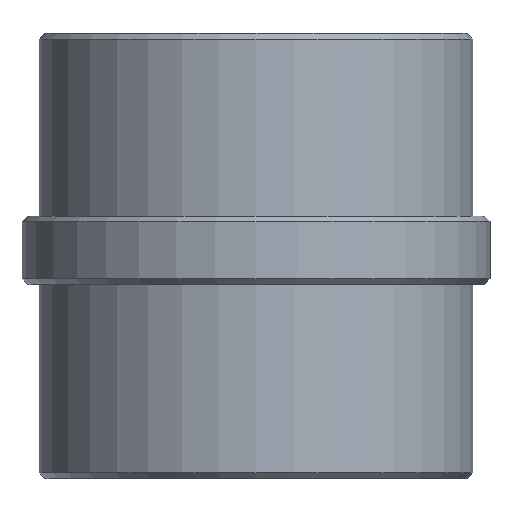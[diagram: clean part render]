
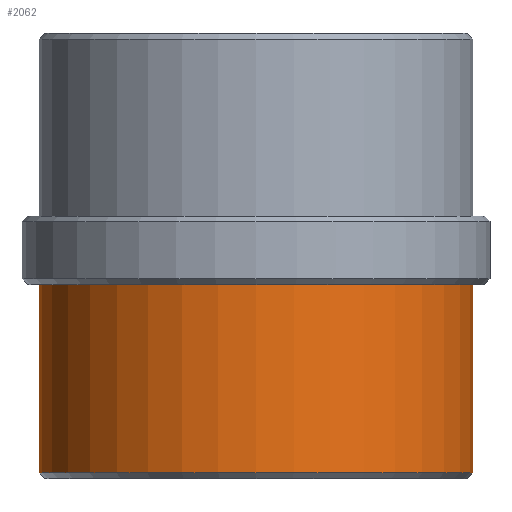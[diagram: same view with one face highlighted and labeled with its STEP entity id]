
A CAD part, front view. The second image highlights one B-rep face of the part: STEP entity #2062.
In plain terms, the highlighted cylindrical face has radius 19 mm (diameter 38 mm), a partial arc.
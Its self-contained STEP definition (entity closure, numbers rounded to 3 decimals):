
#977=CARTESIAN_POINT('',(0.,0.,-16.5));
#978=DIRECTION('',(0.,0.,-1.));
#979=DIRECTION('',(1.,0.,0.));
#980=AXIS2_PLACEMENT_3D('',#977,#978,#979);
#982=DIRECTION('',(0.,0.,-1.));
#983=VECTOR('',#982,16.5);
#984=CARTESIAN_POINT('',(-19.,0.,0.));
#985=LINE('',#984,#983);
#986=CARTESIAN_POINT('',(0.,0.,0.));
#987=DIRECTION('',(0.,0.,-1.));
#988=DIRECTION('',(1.,0.,0.));
#989=AXIS2_PLACEMENT_3D('',#986,#987,#988);
#991=DIRECTION('',(0.,0.,-1.));
#992=VECTOR('',#991,16.5);
#993=CARTESIAN_POINT('',(19.,0.,0.));
#994=LINE('',#993,#992);
#1215=CARTESIAN_POINT('',(19.,0.,0.));
#1216=CARTESIAN_POINT('',(-19.,0.,0.));
#1217=VERTEX_POINT('',#1215);
#1218=VERTEX_POINT('',#1216);
#1223=CARTESIAN_POINT('',(-19.,0.,-16.5));
#1224=CARTESIAN_POINT('',(19.,0.,-16.5));
#1225=VERTEX_POINT('',#1223);
#1226=VERTEX_POINT('',#1224);
#2051=CARTESIAN_POINT('',(0.,0.,-18.95));
#2052=DIRECTION('',(0.,0.,1.));
#2053=DIRECTION('',(-1.,0.,0.));
#2054=AXIS2_PLACEMENT_3D('',#2051,#2052,#2053);
#2055=CYLINDRICAL_SURFACE('',#2054,19.);
#2056=ORIENTED_EDGE('',*,*,#2045,.T.);
#2057=ORIENTED_EDGE('',*,*,#2001,.F.);
#2058=ORIENTED_EDGE('',*,*,#1986,.F.);
#2059=ORIENTED_EDGE('',*,*,#1998,.T.);
#2060=EDGE_LOOP('',(#2056,#2057,#2058,#2059));
#2061=FACE_OUTER_BOUND('',#2060,.F.);
#2062=ADVANCED_FACE('',(#2061),#2055,.T.);
#981=CIRCLE('',#980,19.);
#990=CIRCLE('',#989,19.);
#1986=EDGE_CURVE('',#1217,#1218,#990,.T.);
#1998=EDGE_CURVE('',#1217,#1226,#994,.T.);
#2001=EDGE_CURVE('',#1218,#1225,#985,.T.);
#2045=EDGE_CURVE('',#1226,#1225,#981,.T.);
